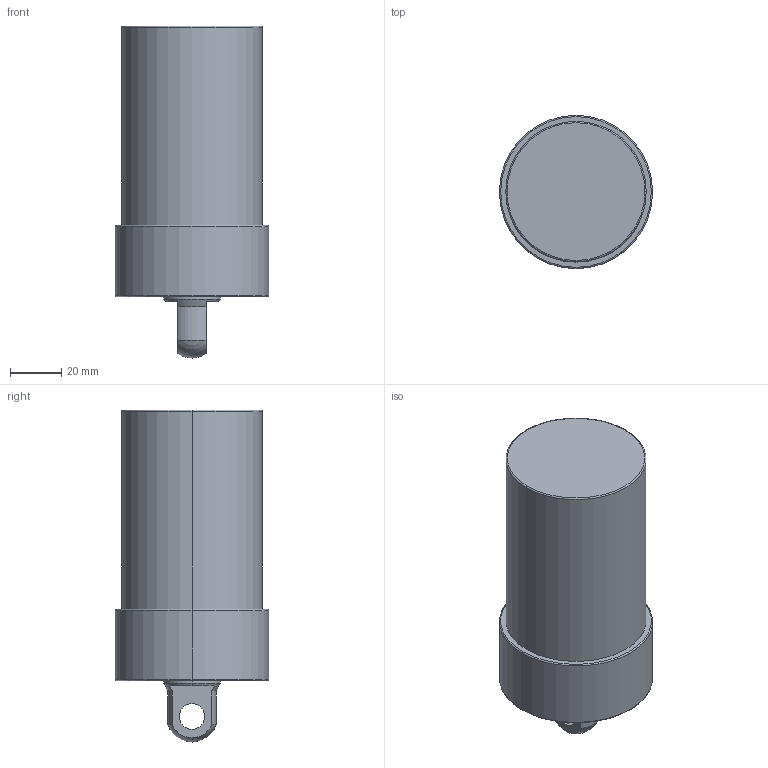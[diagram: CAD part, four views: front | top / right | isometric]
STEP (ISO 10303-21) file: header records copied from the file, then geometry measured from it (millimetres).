
FILE_DESCRIPTION (( 'STEP AP203' ), '1' );
FILE_NAME ('CLLU055-CP-065.STEP', '2017-05-12T10:50:00', ( '' ), ( '' ), 'SwSTEP 2.0', 'SolidWorks 2015', '' );
FILE_SCHEMA (( 'CONFIG_CONTROL_DESIGN' ));
Length unit declared in the file: millimetre
Products named in the file (1): CLLU055-CP-065
Bounding box: 60 x 60 x 130 mm (x, y, z)
Volume: 266712.1 mm3; surface area: 26731.2 mm2
Topology: 1 solids, 1 shells, 57 faces, 130 edges, 75 vertices
Faces by surface type: cylinder 22, cone 18, plane 9, torus 6, sphere 2
Entity records: 1643 total; most frequent: DIRECTION 308, CARTESIAN_POINT 267, ORIENTED_EDGE 244, AXIS2_PLACEMENT_3D 132, EDGE_CURVE 122, VERTEX_POINT 75, CIRCLE 74, EDGE_LOOP 67
